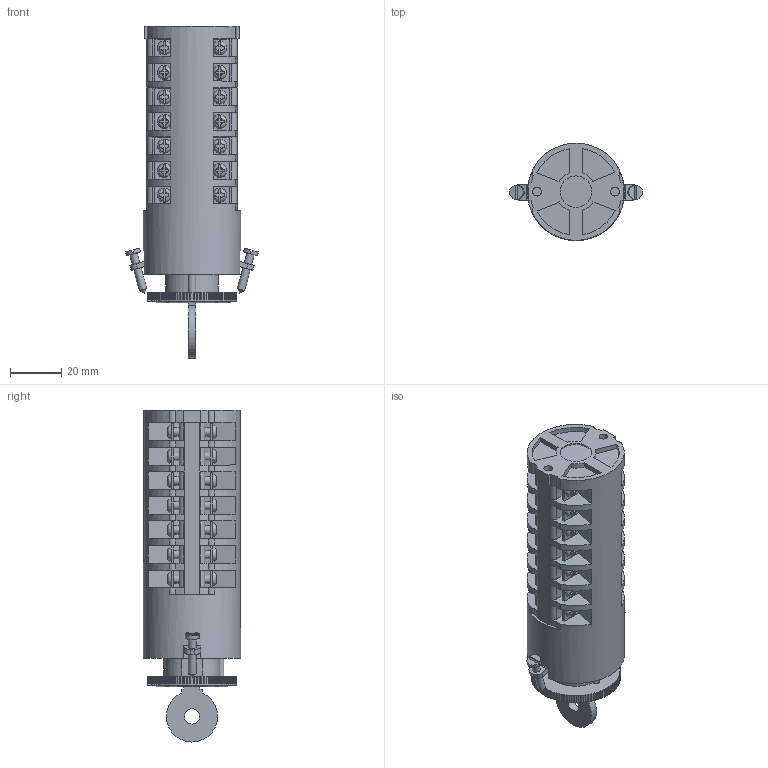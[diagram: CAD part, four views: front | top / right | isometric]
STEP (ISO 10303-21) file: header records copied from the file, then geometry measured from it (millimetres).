
FILE_DESCRIPTION(/* description */ (''),/* implementation_level */ '2;1');
FILE_NAME(/* name */ '4G10-U_wykonanie_S10_7_korpusow.stp',/* time_stamp */ '2021-07-21T08:25:42+02:00',/* author */ (''),/* organization */ (''),/* preprocessor_version */ 'ST-DEVELOPER v18.1',/* originating_system */ 'SIEMENS PLM Software NX 1965',/* authorisation */ '');
FILE_SCHEMA (('AUTOMOTIVE_DESIGN { 1 0 10303 214 3 1 1 1 }'));
Length unit declared in the file: millimetre
Products named in the file (1): 4G10-U_wykonanie_S10_7_korpusow_stp
Bounding box: 51.98 x 38 x 129.88 mm (x, y, z)
Volume: 99160.6 mm3; surface area: 29288.6 mm2
Topology: 1 solids, 3 shells, 1263 faces, 3577 edges, 2392 vertices
Faces by surface type: plane 1013, cylinder 216, bspline 28, cone 4, torus 2
Full cylindrical faces by diameter (mm): 3 x4, 3.2 x28, 3.4 x4, 5.5 x2, 5.6 x2, 6 x1, 12.3 x1, 15.8 x1, 16.1 x1, 38 x1
Entity records: 40880 total; most frequent: CARTESIAN_POINT 8874, ORIENTED_EDGE 6854, DIRECTION 6306, EDGE_CURVE 3427, VERTEX_POINT 2323, LINE 2284, VECTOR 2284, AXIS2_PLACEMENT_3D 2011
